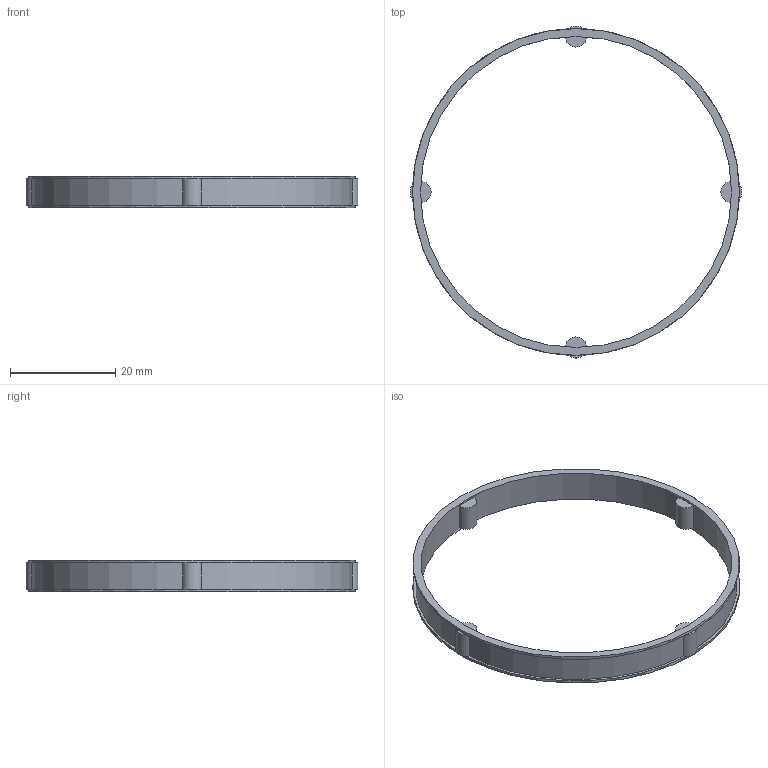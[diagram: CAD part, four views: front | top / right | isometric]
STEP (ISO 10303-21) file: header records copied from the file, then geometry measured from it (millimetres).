
FILE_DESCRIPTION(/* description */ (''),/* implementation_level */ '2;1');
FILE_NAME(/* name */ '302793 RL 463 - 4.stp',/* time_stamp */ '2016-11-10T15:40:00+01:00',/* author */ (''),/* organization */ (''),/* preprocessor_version */ 'ST-DEVELOPER v15',/* originating_system */ 'SIEMENS PLM Software NX 8.5',/* authorisation */ '');
FILE_SCHEMA (('CONFIG_CONTROL_DESIGN'));
Length unit declared in the file: millimetre
Products named in the file (1): ATE0000098_01
Bounding box: 62.99 x 62.99 x 6 mm (x, y, z)
Volume: 1401.7 mm3; surface area: 3131.4 mm2
Topology: 1 solids, 1 shells, 41 faces, 92 edges, 56 vertices
Faces by surface type: plane 26, cylinder 15
Full cylindrical faces by diameter (mm): 59 x1, 62 x2
Entity records: 1198 total; most frequent: DIRECTION 236, CARTESIAN_POINT 178, ORIENTED_EDGE 168, AXIS2_PLACEMENT_3D 110, EDGE_CURVE 84, CIRCLE 68, VERTEX_POINT 52, EDGE_LOOP 50
